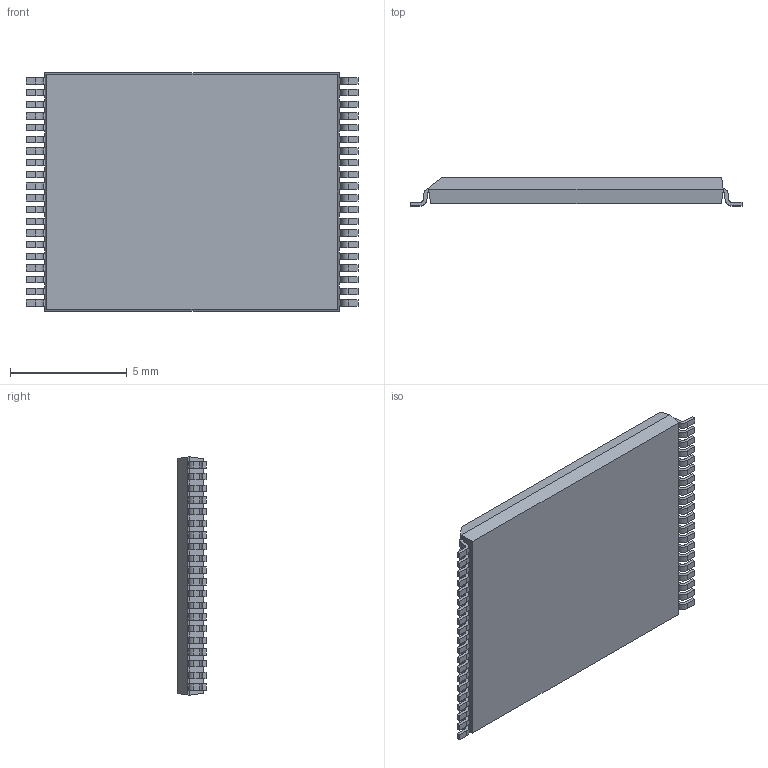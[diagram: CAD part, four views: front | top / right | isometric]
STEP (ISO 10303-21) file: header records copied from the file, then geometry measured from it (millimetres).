
FILE_DESCRIPTION (( 'STEP AP214' ), '1' );
FILE_NAME ('TSSOP50P1400X120-40_MO-142.CA.STEP', '2014-10-29T11:00:22', ( 'Tester2' ), ( '' ), 'SwSTEP 2.0', 'SolidWorks 2012', '' );
FILE_SCHEMA (( 'AUTOMOTIVE_DESIGN' ));
Length unit declared in the file: millimetre
Products named in the file (1): TSSOP50P1400X120-40_MO-142.CA
Bounding box: 14.2 x 1.2 x 10.2 mm (x, y, z)
Volume: 140.4 mm3; surface area: 339 mm2
Topology: 1 solids, 1 shells, 454 faces, 1349 edges, 898 vertices
Faces by surface type: plane 292, cylinder 162
Entity records: 20112 total; most frequent: CARTESIAN_POINT 2702, ORIENTED_EDGE 2698, DIRECTION 2583, EDGE_CURVE 1349, VECTOR 1025, LINE 1025, VERTEX_POINT 898, AXIS2_PLACEMENT_3D 779
